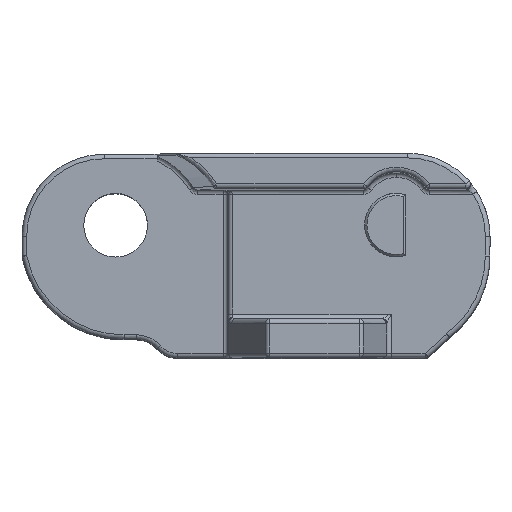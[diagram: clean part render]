
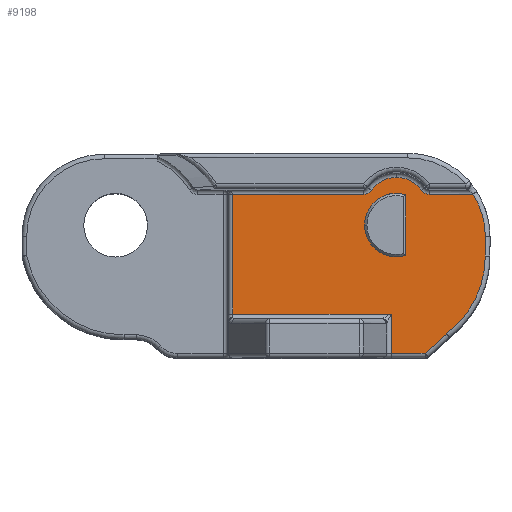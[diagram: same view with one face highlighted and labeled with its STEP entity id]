
A CAD part, top view. The second image highlights one B-rep face of the part: STEP entity #9198.
In plain terms, the highlighted planar face has unit normal (0, 0, 1).
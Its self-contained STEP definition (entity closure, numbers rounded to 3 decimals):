
#77 = ORIENTED_EDGE ( 'NONE', *, *, #4221, .T. ) ;
#233 = DIRECTION ( 'NONE',  ( 0., 0., 1. ) ) ;
#312 = CARTESIAN_POINT ( 'NONE',  ( 20.32, 8.318, 28.448 ) ) ;
#322 = ORIENTED_EDGE ( 'NONE', *, *, #2053, .F. ) ;
#343 = CARTESIAN_POINT ( 'NONE',  ( 19.05, 6.477, 28.448 ) ) ;
#438 = EDGE_CURVE ( 'NONE', #1599, #4573, #1207, .T. ) ;
#463 = LINE ( 'NONE', #3751, #6458 ) ;
#501 = VERTEX_POINT ( 'NONE', #2668 ) ;
#626 = DIRECTION ( 'NONE',  ( 1., 0., 0. ) ) ;
#639 = VERTEX_POINT ( 'NONE', #713 ) ;
#662 = ORIENTED_EDGE ( 'NONE', *, *, #4383, .T. ) ;
#713 = CARTESIAN_POINT ( 'NONE',  ( 22.942, -13.208, 28.448 ) ) ;
#751 = LINE ( 'NONE', #6631, #8493 ) ;
#907 = VERTEX_POINT ( 'NONE', #8513 ) ;
#966 = CIRCLE ( 'NONE', #8509, 4.318 ) ;
#996 = DIRECTION ( 'NONE',  ( 0., 0., 1. ) ) ;
#1116 = DIRECTION ( 'NONE',  ( 0., 1., 0. ) ) ;
#1146 = VERTEX_POINT ( 'NONE', #9624 ) ;
#1207 = CIRCLE ( 'NONE', #3843, 4.191 ) ;
#1271 = PLANE ( 'NONE',  #5974 ) ;
#1281 = CARTESIAN_POINT ( 'NONE',  ( 19.05, 10.668, 28.448 ) ) ;
#1410 = VERTEX_POINT ( 'NONE', #9132 ) ;
#1469 = EDGE_LOOP ( 'NONE', ( #4912, #8031 ) ) ;
#1489 = EDGE_CURVE ( 'NONE', #1146, #3407, #2846, .T. ) ;
#1503 = EDGE_LOOP ( 'NONE', ( #77, #6287, #7555, #8426, #1711, #8213, #322, #8612, #1857, #9684, #662, #7370, #9179, #2078, #6770 ) ) ;
#1586 = CARTESIAN_POINT ( 'NONE',  ( 25.818, -10.58, 28.448 ) ) ;
#1599 = VERTEX_POINT ( 'NONE', #3363 ) ;
#1633 = DIRECTION ( 'NONE',  ( 0., 0., 1. ) ) ;
#1711 = ORIENTED_EDGE ( 'NONE', *, *, #7022, .T. ) ;
#1844 = CARTESIAN_POINT ( 'NONE',  ( 26.653, -11.538, 28.448 ) ) ;
#1857 = ORIENTED_EDGE ( 'NONE', *, *, #7831, .T. ) ;
#1905 = VERTEX_POINT ( 'NONE', #3158 ) ;
#1947 = VERTEX_POINT ( 'NONE', #4740 ) ;
#2053 = EDGE_CURVE ( 'NONE', #2171, #7118, #3202, .T. ) ;
#2078 = ORIENTED_EDGE ( 'NONE', *, *, #2424, .T. ) ;
#2171 = VERTEX_POINT ( 'NONE', #6412 ) ;
#2209 = CARTESIAN_POINT ( 'NONE',  ( 20.32, 9.017, 28.448 ) ) ;
#2266 = CARTESIAN_POINT ( 'NONE',  ( 31.115, 9.017, 28.448 ) ) ;
#2337 = CARTESIAN_POINT ( 'NONE',  ( 19.05, 6.477, 28.448 ) ) ;
#2361 = VECTOR ( 'NONE', #8729, 1000. ) ;
#2424 = EDGE_CURVE ( 'NONE', #4573, #2656, #4849, .T. ) ;
#2462 = DIRECTION ( 'NONE',  ( 0., 0., 1. ) ) ;
#2597 = CARTESIAN_POINT ( 'NONE',  ( -97.105, 8.382, 28.448 ) ) ;
#2602 = DIRECTION ( 'NONE',  ( 0., 1., 0. ) ) ;
#2622 = AXIS2_PLACEMENT_3D ( 'NONE', #5497, #996, #6234 ) ;
#2656 = VERTEX_POINT ( 'NONE', #9197 ) ;
#2668 = CARTESIAN_POINT ( 'NONE',  ( 14.607, 8.382, 28.448 ) ) ;
#2693 = CARTESIAN_POINT ( 'NONE',  ( 17.907, 0., 28.448 ) ) ;
#2763 = EDGE_CURVE ( 'NONE', #907, #1947, #463, .T. ) ;
#2846 = CIRCLE ( 'NONE', #4616, 10.541 ) ;
#2883 = CARTESIAN_POINT ( 'NONE',  ( -97.105, -13.208, 28.448 ) ) ;
#2903 = DIRECTION ( 'NONE',  ( 1., 0., 0. ) ) ;
#2957 = FACE_BOUND ( 'NONE', #1469, .T. ) ;
#2987 = DIRECTION ( 'NONE',  ( 0., 1., 0. ) ) ;
#3158 = CARTESIAN_POINT ( 'NONE',  ( -3.175, 8.382, 28.448 ) ) ;
#3202 = CIRCLE ( 'NONE', #6224, 1.27 ) ;
#3363 = CARTESIAN_POINT ( 'NONE',  ( 22.46, 8.914, 28.448 ) ) ;
#3405 = VECTOR ( 'NONE', #6071, 1000. ) ;
#3407 = VERTEX_POINT ( 'NONE', #9313 ) ;
#3443 = DIRECTION ( 'NONE',  ( 0., 1., 0. ) ) ;
#3478 = CARTESIAN_POINT ( 'NONE',  ( -3.175, 9.017, 28.448 ) ) ;
#3639 = DIRECTION ( 'NONE',  ( 0., 1., 0. ) ) ;
#3708 = VECTOR ( 'NONE', #7106, 1000. ) ;
#3751 = CARTESIAN_POINT ( 'NONE',  ( -97.105, -7.874, 28.448 ) ) ;
#3843 = AXIS2_PLACEMENT_3D ( 'NONE', #343, #5621, #1116 ) ;
#4101 = EDGE_CURVE ( 'NONE', #7466, #9355, #7737, .T. ) ;
#4191 = AXIS2_PLACEMENT_3D ( 'NONE', #2693, #7942, #3443 ) ;
#4221 = EDGE_CURVE ( 'NONE', #501, #1905, #6627, .T. ) ;
#4359 = LINE ( 'NONE', #3478, #2361 ) ;
#4362 = CARTESIAN_POINT ( 'NONE',  ( 19.05, 4.191, 28.448 ) ) ;
#4383 = EDGE_CURVE ( 'NONE', #3407, #1410, #5708, .T. ) ;
#4459 = EDGE_CURVE ( 'NONE', #2171, #8516, #7218, .T. ) ;
#4502 = VECTOR ( 'NONE', #626, 1000. ) ;
#4573 = VERTEX_POINT ( 'NONE', #1281 ) ;
#4616 = AXIS2_PLACEMENT_3D ( 'NONE', #4752, #233, #5505 ) ;
#4628 = CIRCLE ( 'NONE', #7192, 1.27 ) ;
#4666 = VECTOR ( 'NONE', #6074, 1000. ) ;
#4740 = CARTESIAN_POINT ( 'NONE',  ( 18.352, -7.874, 28.448 ) ) ;
#4752 = CARTESIAN_POINT ( 'NONE',  ( 20.574, 2.667, 28.448 ) ) ;
#4849 = CIRCLE ( 'NONE', #8554, 4.191 ) ;
#4850 = CIRCLE ( 'NONE', #2622, 1.27 ) ;
#4912 = ORIENTED_EDGE ( 'NONE', *, *, #4101, .T. ) ;
#5048 = DIRECTION ( 'NONE',  ( 0., 1., 0. ) ) ;
#5067 = VECTOR ( 'NONE', #2987, 1000. ) ;
#5108 = DIRECTION ( 'NONE',  ( 0., 1., 0. ) ) ;
#5153 = EDGE_CURVE ( 'NONE', #1947, #9210, #751, .T. ) ;
#5497 = CARTESIAN_POINT ( 'NONE',  ( 14.607, 9.652, 28.448 ) ) ;
#5505 = DIRECTION ( 'NONE',  ( 0., 1., 0. ) ) ;
#5621 = DIRECTION ( 'NONE',  ( 0., 0., 1. ) ) ;
#5708 = LINE ( 'NONE', #2597, #3708 ) ;
#5974 = AXIS2_PLACEMENT_3D ( 'NONE', #8039, #9526, #5048 ) ;
#6071 = DIRECTION ( 'NONE',  ( 0.738, 0.675, 0. ) ) ;
#6074 = DIRECTION ( 'NONE',  ( -1., 0., 0. ) ) ;
#6224 = AXIS2_PLACEMENT_3D ( 'NONE', #1844, #7081, #2602 ) ;
#6234 = DIRECTION ( 'NONE',  ( 0., 1., 0. ) ) ;
#6263 = CARTESIAN_POINT ( 'NONE',  ( 31.115, 0., 28.448 ) ) ;
#6287 = ORIENTED_EDGE ( 'NONE', *, *, #8605, .T. ) ;
#6412 = CARTESIAN_POINT ( 'NONE',  ( 25.886, -10.526, 28.448 ) ) ;
#6458 = VECTOR ( 'NONE', #2903, 1000. ) ;
#6471 = LINE ( 'NONE', #2883, #4502 ) ;
#6627 = LINE ( 'NONE', #6756, #4666 ) ;
#6631 = CARTESIAN_POINT ( 'NONE',  ( 18.352, 9.017, 28.448 ) ) ;
#6686 = DIRECTION ( 'NONE',  ( 0., -1., 0. ) ) ;
#6739 = CARTESIAN_POINT ( 'NONE',  ( 25.796, -10.6, 28.448 ) ) ;
#6751 = EDGE_CURVE ( 'NONE', #1599, #1410, #4628, .T. ) ;
#6756 = CARTESIAN_POINT ( 'NONE',  ( -97.105, 8.382, 28.448 ) ) ;
#6770 = ORIENTED_EDGE ( 'NONE', *, *, #7319, .F. ) ;
#6943 = CARTESIAN_POINT ( 'NONE',  ( 23.493, 9.652, 28.448 ) ) ;
#6980 = EDGE_CURVE ( 'NONE', #9355, #7466, #966, .T. ) ;
#7022 = EDGE_CURVE ( 'NONE', #9210, #639, #6471, .T. ) ;
#7081 = DIRECTION ( 'NONE',  ( 0., 0., 1. ) ) ;
#7106 = DIRECTION ( 'NONE',  ( -1., 0., 0. ) ) ;
#7118 = VERTEX_POINT ( 'NONE', #6739 ) ;
#7192 = AXIS2_PLACEMENT_3D ( 'NONE', #6943, #2462, #7700 ) ;
#7218 = CIRCLE ( 'NONE', #4191, 13.208 ) ;
#7303 = CARTESIAN_POINT ( 'NONE',  ( 18.352, -13.208, 28.448 ) ) ;
#7319 = EDGE_CURVE ( 'NONE', #501, #2656, #4850, .T. ) ;
#7370 = ORIENTED_EDGE ( 'NONE', *, *, #6751, .F. ) ;
#7404 = DIRECTION ( 'NONE',  ( 0., -1., 0. ) ) ;
#7466 = VERTEX_POINT ( 'NONE', #312 ) ;
#7555 = ORIENTED_EDGE ( 'NONE', *, *, #2763, .T. ) ;
#7700 = DIRECTION ( 'NONE',  ( 0., 1., 0. ) ) ;
#7737 = LINE ( 'NONE', #2209, #8215 ) ;
#7763 = LINE ( 'NONE', #2266, #5067 ) ;
#7831 = EDGE_CURVE ( 'NONE', #8516, #1146, #7763, .T. ) ;
#7942 = DIRECTION ( 'NONE',  ( 0., 0., 1. ) ) ;
#8031 = ORIENTED_EDGE ( 'NONE', *, *, #6980, .T. ) ;
#8039 = CARTESIAN_POINT ( 'NONE',  ( -97.105, 9.017, 28.448 ) ) ;
#8213 = ORIENTED_EDGE ( 'NONE', *, *, #8909, .T. ) ;
#8215 = VECTOR ( 'NONE', #6686, 1000. ) ;
#8426 = ORIENTED_EDGE ( 'NONE', *, *, #5153, .T. ) ;
#8493 = VECTOR ( 'NONE', #7404, 1000. ) ;
#8509 = AXIS2_PLACEMENT_3D ( 'NONE', #4362, #9589, #5108 ) ;
#8513 = CARTESIAN_POINT ( 'NONE',  ( -3.175, -7.874, 28.448 ) ) ;
#8516 = VERTEX_POINT ( 'NONE', #6263 ) ;
#8554 = AXIS2_PLACEMENT_3D ( 'NONE', #2337, #1633, #3639 ) ;
#8578 = LINE ( 'NONE', #1586, #3405 ) ;
#8605 = EDGE_CURVE ( 'NONE', #1905, #907, #4359, .T. ) ;
#8612 = ORIENTED_EDGE ( 'NONE', *, *, #4459, .T. ) ;
#8692 = FACE_OUTER_BOUND ( 'NONE', #1503, .T. ) ;
#8729 = DIRECTION ( 'NONE',  ( 0., -1., 0. ) ) ;
#8909 = EDGE_CURVE ( 'NONE', #639, #7118, #8578, .T. ) ;
#8975 = CARTESIAN_POINT ( 'NONE',  ( 20.32, 0.064, 28.448 ) ) ;
#9132 = CARTESIAN_POINT ( 'NONE',  ( 23.493, 8.382, 28.448 ) ) ;
#9179 = ORIENTED_EDGE ( 'NONE', *, *, #438, .T. ) ;
#9197 = CARTESIAN_POINT ( 'NONE',  ( 15.64, 8.914, 28.448 ) ) ;
#9198 = ADVANCED_FACE ( 'NONE', ( #2957, #8692 ), #1271, .F. ) ;
#9210 = VERTEX_POINT ( 'NONE', #7303 ) ;
#9313 = CARTESIAN_POINT ( 'NONE',  ( 29.431, 8.382, 28.448 ) ) ;
#9355 = VERTEX_POINT ( 'NONE', #8975 ) ;
#9526 = DIRECTION ( 'NONE',  ( 0., 0., -1. ) ) ;
#9589 = DIRECTION ( 'NONE',  ( 0., 0., -1. ) ) ;
#9624 = CARTESIAN_POINT ( 'NONE',  ( 31.115, 2.667, 28.448 ) ) ;
#9684 = ORIENTED_EDGE ( 'NONE', *, *, #1489, .T. ) ;
